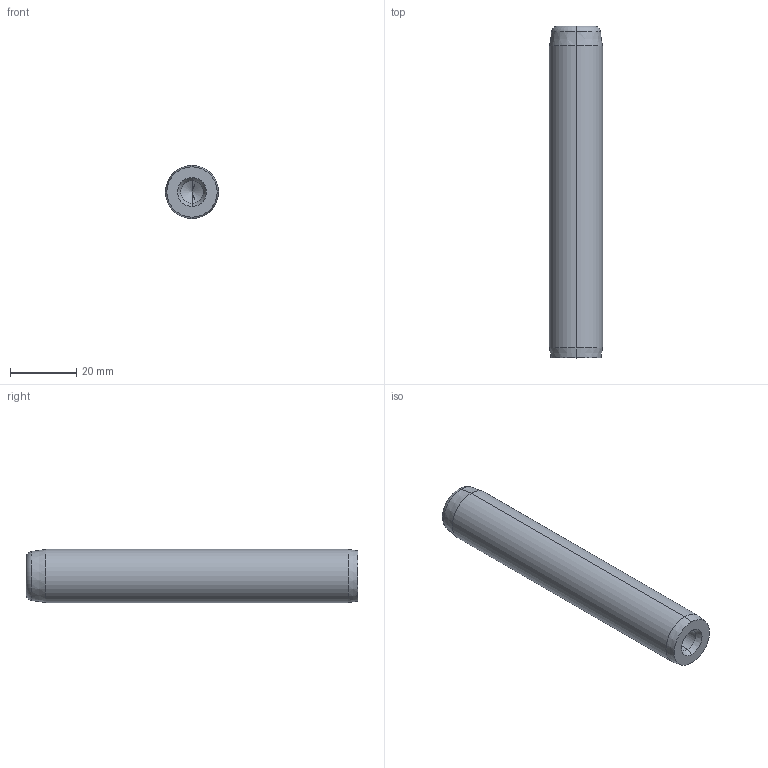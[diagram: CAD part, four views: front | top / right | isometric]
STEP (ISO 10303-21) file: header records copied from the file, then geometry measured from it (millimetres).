
FILE_DESCRIPTION (( 'STEP AP214' ), '1' );
FILE_NAME ('D14_16100.STEP', '2011-12-24T22:50:20', ( 'Dell' ), ( '' ), 'SwSTEP 2.0', 'SolidWorks 2010', '' );
FILE_SCHEMA (( 'AUTOMOTIVE_DESIGN' ));
Length unit declared in the file: metre
Products named in the file (1): D14_16100
Bounding box: 16 x 100 x 16 mm (x, y, z)
Volume: 17960.4 mm3; surface area: 6422.8 mm2
Topology: 1 solids, 1 shells, 22 faces, 46 edges, 24 vertices
Faces by surface type: cone 12, cylinder 6, torus 2, plane 2
Entity records: 588 total; most frequent: DIRECTION 112, CARTESIAN_POINT 89, ORIENTED_EDGE 84, AXIS2_PLACEMENT_3D 47, EDGE_CURVE 42, VERTEX_POINT 24, EDGE_LOOP 24, CIRCLE 24
